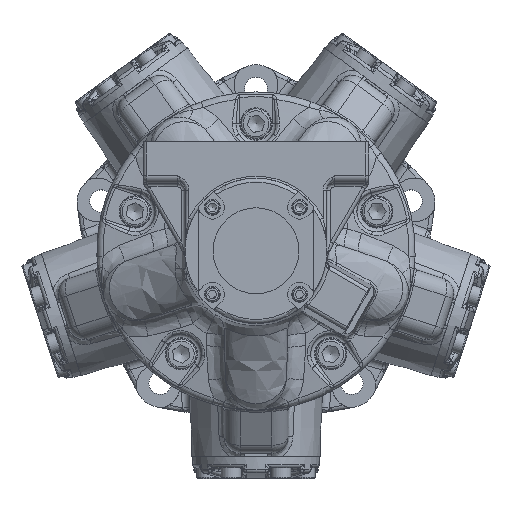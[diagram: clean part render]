
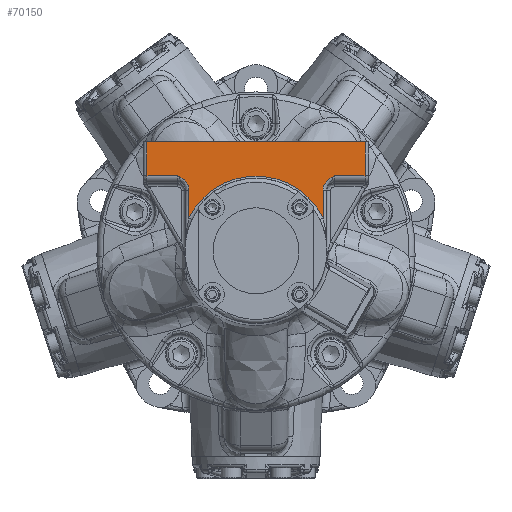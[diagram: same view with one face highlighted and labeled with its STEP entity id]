
A CAD part, top view. The second image highlights one B-rep face of the part: STEP entity #70150.
In plain terms, the highlighted planar face has unit normal (0, 0, 1).
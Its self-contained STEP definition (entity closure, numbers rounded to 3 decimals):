
#5436=B_SPLINE_CURVE_WITH_KNOTS('',3,(#175568,#175569,#175570,#175571,#175572,
#175573,#175574,#175575,#175576,#175577,#175578,#175579),.UNSPECIFIED.,
 .F.,.F.,(4,2,1,1,1,1,1,1,4),(-0.001,0.,0.308,
0.616,0.924,1.079,1.233,1.387,
1.541),.UNSPECIFIED.);
#5440=B_SPLINE_CURVE_WITH_KNOTS('',3,(#175675,#175676,#175677,#175678,#175679,
#175680,#175681,#175682,#175683,#175684,#175685),.UNSPECIFIED.,.F.,.F.,
(4,1,1,1,1,1,2,4),(0.,0.308,0.616,0.77,
0.924,1.233,1.541,1.542),
 .UNSPECIFIED.);
#9784=LINE('',#175437,#12660);
#9790=LINE('',#175610,#12666);
#9833=LINE('',#177400,#12709);
#9854=LINE('',#177904,#12730);
#9879=LINE('',#179229,#12755);
#9880=LINE('',#179232,#12756);
#9881=LINE('',#179233,#12757);
#12660=VECTOR('',#86999,10.);
#12666=VECTOR('',#87067,10.);
#12709=VECTOR('',#87296,10.);
#12730=VECTOR('',#87429,10.);
#12755=VECTOR('',#87592,10.);
#12756=VECTOR('',#87595,10.);
#12757=VECTOR('',#87596,10.);
#13974=PLANE('',#75256);
#17720=FACE_OUTER_BOUND('',#22108,.T.);
#22108=EDGE_LOOP('',(#58955,#58956,#58957,#58958,#58959,#58960,#58961,#58962,
#58963,#58964));
#24981=CIRCLE('',#75194,59.607);
#30824=VERTEX_POINT('',#175433);
#30826=VERTEX_POINT('',#175436);
#30846=VERTEX_POINT('',#175566);
#30847=VERTEX_POINT('',#175581);
#30851=VERTEX_POINT('',#175600);
#30853=VERTEX_POINT('',#175609);
#30937=VERTEX_POINT('',#177398);
#30982=VERTEX_POINT('',#177889);
#31053=VERTEX_POINT('',#179227);
#31054=VERTEX_POINT('',#179231);
#40079=EDGE_CURVE('',#30824,#30826,#9784,.T.);
#40106=EDGE_CURVE('',#30826,#30846,#5436,.T.);
#40112=EDGE_CURVE('',#30851,#30853,#9790,.T.);
#40116=EDGE_CURVE('',#30853,#30847,#5440,.T.);
#40273=EDGE_CURVE('',#30847,#30937,#9833,.T.);
#40352=EDGE_CURVE('',#30846,#30982,#9854,.T.);
#40362=EDGE_CURVE('',#30982,#30851,#24981,.T.);
#40481=EDGE_CURVE('',#30937,#31053,#9879,.T.);
#40482=EDGE_CURVE('',#31054,#31053,#9880,.T.);
#40483=EDGE_CURVE('',#31054,#30824,#9881,.T.);
#58955=ORIENTED_EDGE('',*,*,#40482,.T.);
#58956=ORIENTED_EDGE('',*,*,#40481,.F.);
#58957=ORIENTED_EDGE('',*,*,#40273,.F.);
#58958=ORIENTED_EDGE('',*,*,#40116,.F.);
#58959=ORIENTED_EDGE('',*,*,#40112,.F.);
#58960=ORIENTED_EDGE('',*,*,#40362,.F.);
#58961=ORIENTED_EDGE('',*,*,#40352,.F.);
#58962=ORIENTED_EDGE('',*,*,#40106,.F.);
#58963=ORIENTED_EDGE('',*,*,#40079,.F.);
#58964=ORIENTED_EDGE('',*,*,#40483,.F.);
#70150=ADVANCED_FACE('',(#17720),#13974,.T.);
#75194=AXIS2_PLACEMENT_3D('',#178021,#87444,#87445);
#75256=AXIS2_PLACEMENT_3D('',#179230,#87593,#87594);
#86999=DIRECTION('',(-1.,0.,0.));
#87067=DIRECTION('',(0.,1.,0.));
#87296=DIRECTION('',(-1.,0.,0.));
#87429=DIRECTION('',(0.,-1.,0.));
#87444=DIRECTION('center_axis',(0.,0.,
1.));
#87445=DIRECTION('ref_axis',(0.,1.,0.));
#87592=DIRECTION('',(0.,1.,0.));
#87593=DIRECTION('center_axis',(0.,0.,
1.));
#87594=DIRECTION('ref_axis',(-1.,0.,0.));
#87595=DIRECTION('',(-1.,0.,0.));
#87596=DIRECTION('',(0.,-1.,0.));
#175433=CARTESIAN_POINT('',(87.,60.,279.658));
#175436=CARTESIAN_POINT('',(62.5,60.,279.658));
#175437=CARTESIAN_POINT('',(-45.,60.,279.658));
#175566=CARTESIAN_POINT('',(53.5,48.381,279.658));
#175568=CARTESIAN_POINT('Ctrl Pts',(62.5,60.,279.658));
#175569=CARTESIAN_POINT('Ctrl Pts',(62.496,59.998,279.658));
#175570=CARTESIAN_POINT('Ctrl Pts',(62.492,59.996,279.658));
#175571=CARTESIAN_POINT('Ctrl Pts',(61.599,59.48,279.658));
#175572=CARTESIAN_POINT('Ctrl Pts',(59.816,58.451,279.658));
#175573=CARTESIAN_POINT('Ctrl Pts',(57.308,56.591,279.658));
#175574=CARTESIAN_POINT('Ctrl Pts',(55.591,54.67,279.658));
#175575=CARTESIAN_POINT('Ctrl Pts',(54.535,52.873,279.658));
#175576=CARTESIAN_POINT('Ctrl Pts',(53.952,51.447,279.658));
#175577=CARTESIAN_POINT('Ctrl Pts',(53.582,49.928,279.658));
#175578=CARTESIAN_POINT('Ctrl Pts',(53.5,48.895,279.658));
#175579=CARTESIAN_POINT('Ctrl Pts',(53.5,48.381,279.658));
#175581=CARTESIAN_POINT('',(-62.5,60.,279.658));
#175600=CARTESIAN_POINT('',(-53.5,26.281,279.658));
#175609=CARTESIAN_POINT('',(-53.5,48.381,279.658));
#175610=CARTESIAN_POINT('',(-53.5,5.874,279.658));
#175675=CARTESIAN_POINT('Ctrl Pts',(-53.5,48.381,279.658));
#175676=CARTESIAN_POINT('Ctrl Pts',(-53.5,49.408,
279.658));
#175677=CARTESIAN_POINT('Ctrl Pts',(-53.839,51.486,
279.658));
#175678=CARTESIAN_POINT('Ctrl Pts',(-55.004,53.806,
279.658));
#175679=CARTESIAN_POINT('Ctrl Pts',(-56.28,55.44,
279.658));
#175680=CARTESIAN_POINT('Ctrl Pts',(-57.723,56.899,
279.658));
#175681=CARTESIAN_POINT('Ctrl Pts',(-59.819,58.452,
279.658));
#175682=CARTESIAN_POINT('Ctrl Pts',(-61.599,59.48,279.658));
#175683=CARTESIAN_POINT('Ctrl Pts',(-62.492,59.996,
279.658));
#175684=CARTESIAN_POINT('Ctrl Pts',(-62.496,59.998,
279.658));
#175685=CARTESIAN_POINT('Ctrl Pts',(-62.5,60.,279.658));
#177398=CARTESIAN_POINT('',(-87.,60.,279.658));
#177400=CARTESIAN_POINT('',(-45.,60.,279.658));
#177889=CARTESIAN_POINT('',(53.5,26.281,279.658));
#177904=CARTESIAN_POINT('',(53.5,79.429,279.658));
#178021=CARTESIAN_POINT('Origin',(0.,0.,
279.658));
#179227=CARTESIAN_POINT('',(-87.,87.1,279.658));
#179229=CARTESIAN_POINT('',(-87.,90.,279.658));
#179230=CARTESIAN_POINT('Origin',(-90.,90.,279.658));
#179231=CARTESIAN_POINT('',(87.,87.1,279.658));
#179232=CARTESIAN_POINT('',(-40.349,87.1,279.658));
#179233=CARTESIAN_POINT('',(87.,90.,279.658));
